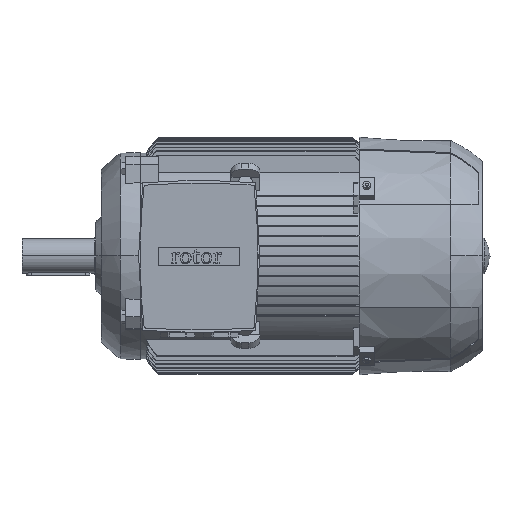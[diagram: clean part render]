
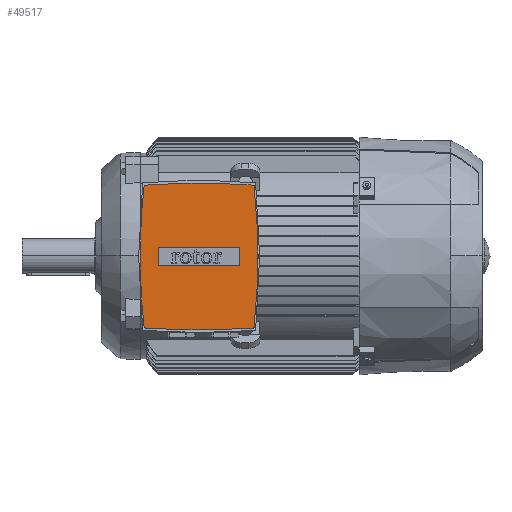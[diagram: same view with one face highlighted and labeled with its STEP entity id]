
A CAD part, top view. The second image highlights one B-rep face of the part: STEP entity #49517.
In plain terms, the highlighted planar face has unit normal (0, 0, 1).
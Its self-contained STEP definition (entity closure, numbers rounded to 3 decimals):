
#274 = CARTESIAN_POINT ( 'NONE',  ( 0., -1., 214.5 ) ) ;
#408 = DIRECTION ( 'NONE',  ( -1., 0., 0. ) ) ;
#720 = VECTOR ( 'NONE', #26824, 1000. ) ;
#748 = ORIENTED_EDGE ( 'NONE', *, *, #20505, .T. ) ;
#786 = EDGE_CURVE ( 'NONE', #38352, #22411, #24232, .T. ) ;
#1305 = EDGE_CURVE ( 'NONE', #51930, #50277, #13979, .T. ) ;
#1890 = ORIENTED_EDGE ( 'NONE', *, *, #1305, .F. ) ;
#2164 = LINE ( 'NONE', #26622, #720 ) ;
#2444 = DIRECTION ( 'NONE',  ( 0., 0., -1. ) ) ;
#4037 = EDGE_CURVE ( 'NONE', #50277, #18705, #31006, .T. ) ;
#4515 = AXIS2_PLACEMENT_3D ( 'NONE', #29259, #2444, #33671 ) ;
#4550 = EDGE_CURVE ( 'NONE', #53738, #56731, #5395, .T. ) ;
#5334 = PLANE ( 'NONE',  #37151 ) ;
#5388 = DIRECTION ( 'NONE',  ( -1., 0., 0. ) ) ;
#5395 = CIRCLE ( 'NONE', #26515, 828.12 ) ;
#5514 = DIRECTION ( 'NONE',  ( 0., 0., 1. ) ) ;
#5769 = DIRECTION ( 'NONE',  ( 0., 0., -1. ) ) ;
#6147 = CARTESIAN_POINT ( 'NONE',  ( 717.2, -1., 214.5 ) ) ;
#7279 = CIRCLE ( 'NONE', #4515, 717.2 ) ;
#11224 = DIRECTION ( 'NONE',  ( 0., 0., -1. ) ) ;
#11252 = ORIENTED_EDGE ( 'NONE', *, *, #52478, .F. ) ;
#11365 = CARTESIAN_POINT ( 'NONE',  ( 110., -11.05, 214.5 ) ) ;
#11605 = CARTESIAN_POINT ( 'NONE',  ( 4.339, 77.775, 214.5 ) ) ;
#11832 = FACE_BOUND ( 'NONE', #24427, .T. ) ;
#11900 = VECTOR ( 'NONE', #47121, 1000. ) ;
#12396 = LINE ( 'NONE', #42665, #11900 ) ;
#13345 = AXIS2_PLACEMENT_3D ( 'NONE', #6147, #5769, #5388 ) ;
#13979 = CIRCLE ( 'NONE', #13345, 717.2 ) ;
#14604 = CARTESIAN_POINT ( 'NONE',  ( 110., 9.05, 214.5 ) ) ;
#15063 = ORIENTED_EDGE ( 'NONE', *, *, #786, .T. ) ;
#16267 = AXIS2_PLACEMENT_3D ( 'NONE', #53685, #27319, #408 ) ;
#17281 = CARTESIAN_POINT ( 'NONE',  ( 20., -11.05, 214.5 ) ) ;
#17366 = EDGE_LOOP ( 'NONE', ( #57332, #1890, #33616, #34007, #11252 ) ) ;
#18705 = VERTEX_POINT ( 'NONE', #53694 ) ;
#19810 = CARTESIAN_POINT ( 'NONE',  ( 125.661, -79.775, 214.5 ) ) ;
#20070 = ORIENTED_EDGE ( 'NONE', *, *, #55768, .T. ) ;
#20248 = CARTESIAN_POINT ( 'NONE',  ( 65., -11.05, 214.5 ) ) ;
#20505 = EDGE_CURVE ( 'NONE', #26242, #38352, #12396, .T. ) ;
#22411 = VERTEX_POINT ( 'NONE', #14604 ) ;
#23840 = VECTOR ( 'NONE', #32933, 1000. ) ;
#24232 = LINE ( 'NONE', #27476, #23840 ) ;
#24427 = EDGE_LOOP ( 'NONE', ( #15063, #20070, #33188, #748 ) ) ;
#26242 = VERTEX_POINT ( 'NONE', #17281 ) ;
#26515 = AXIS2_PLACEMENT_3D ( 'NONE', #40799, #40754, #40624 ) ;
#26622 = CARTESIAN_POINT ( 'NONE',  ( 110., -1., 214.5 ) ) ;
#26824 = DIRECTION ( 'NONE',  ( 0., -1., 0. ) ) ;
#27319 = DIRECTION ( 'NONE',  ( 0., 0., -1. ) ) ;
#27476 = CARTESIAN_POINT ( 'NONE',  ( 65., 9.05, 214.5 ) ) ;
#28097 = EDGE_CURVE ( 'NONE', #36833, #26242, #32069, .T. ) ;
#28829 = CARTESIAN_POINT ( 'NONE',  ( 20., 9.05, 214.5 ) ) ;
#29259 = CARTESIAN_POINT ( 'NONE',  ( 717.2, -1., 214.5 ) ) ;
#30467 = CIRCLE ( 'NONE', #16267, 717.2 ) ;
#31006 = CIRCLE ( 'NONE', #44162, 828.12 ) ;
#31842 = VECTOR ( 'NONE', #46556, 1000. ) ;
#32069 = LINE ( 'NONE', #20248, #31842 ) ;
#32287 = CARTESIAN_POINT ( 'NONE',  ( 65., -1., 214.5 ) ) ;
#32933 = DIRECTION ( 'NONE',  ( 1., 0., 0. ) ) ;
#33188 = ORIENTED_EDGE ( 'NONE', *, *, #28097, .T. ) ;
#33616 = ORIENTED_EDGE ( 'NONE', *, *, #57416, .F. ) ;
#33671 = DIRECTION ( 'NONE',  ( -1., 0., 0. ) ) ;
#34007 = ORIENTED_EDGE ( 'NONE', *, *, #4550, .F. ) ;
#36671 = DIRECTION ( 'NONE',  ( 1., 0., 0. ) ) ;
#36833 = VERTEX_POINT ( 'NONE', #11365 ) ;
#37151 = AXIS2_PLACEMENT_3D ( 'NONE', #32287, #5514, #36671 ) ;
#37729 = CARTESIAN_POINT ( 'NONE',  ( 65., -748.12, 214.5 ) ) ;
#38352 = VERTEX_POINT ( 'NONE', #28829 ) ;
#40624 = DIRECTION ( 'NONE',  ( -1., 0., 0. ) ) ;
#40754 = DIRECTION ( 'NONE',  ( 0., 0., -1. ) ) ;
#40799 = CARTESIAN_POINT ( 'NONE',  ( 65., 746.12, 214.5 ) ) ;
#42068 = DIRECTION ( 'NONE',  ( -1., 0., 0. ) ) ;
#42665 = CARTESIAN_POINT ( 'NONE',  ( 20., -1., 214.5 ) ) ;
#44162 = AXIS2_PLACEMENT_3D ( 'NONE', #37729, #11224, #42068 ) ;
#45607 = FACE_OUTER_BOUND ( 'NONE', #17366, .T. ) ;
#46556 = DIRECTION ( 'NONE',  ( -1., 0., 0. ) ) ;
#47121 = DIRECTION ( 'NONE',  ( 0., 1., 0. ) ) ;
#49517 = ADVANCED_FACE ( 'NONE', ( #45607, #11832 ), #5334, .T. ) ;
#50277 = VERTEX_POINT ( 'NONE', #11605 ) ;
#51930 = VERTEX_POINT ( 'NONE', #274 ) ;
#52478 = EDGE_CURVE ( 'NONE', #18705, #53738, #30467, .T. ) ;
#53685 = CARTESIAN_POINT ( 'NONE',  ( -587.2, -1., 214.5 ) ) ;
#53694 = CARTESIAN_POINT ( 'NONE',  ( 125.661, 77.775, 214.5 ) ) ;
#53738 = VERTEX_POINT ( 'NONE', #19810 ) ;
#55768 = EDGE_CURVE ( 'NONE', #22411, #36833, #2164, .T. ) ;
#56731 = VERTEX_POINT ( 'NONE', #57507 ) ;
#57332 = ORIENTED_EDGE ( 'NONE', *, *, #4037, .F. ) ;
#57416 = EDGE_CURVE ( 'NONE', #56731, #51930, #7279, .T. ) ;
#57507 = CARTESIAN_POINT ( 'NONE',  ( 4.339, -79.775, 214.5 ) ) ;
